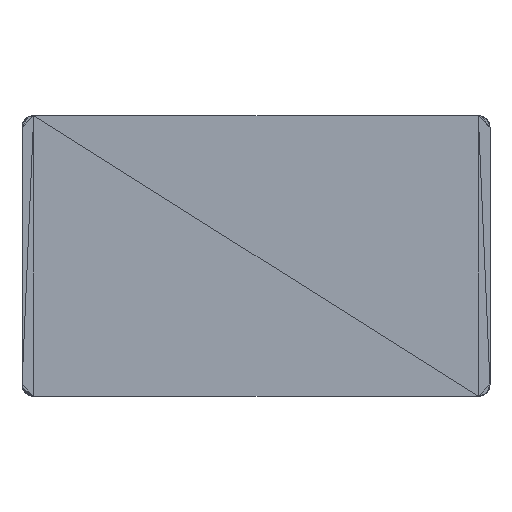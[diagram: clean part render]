
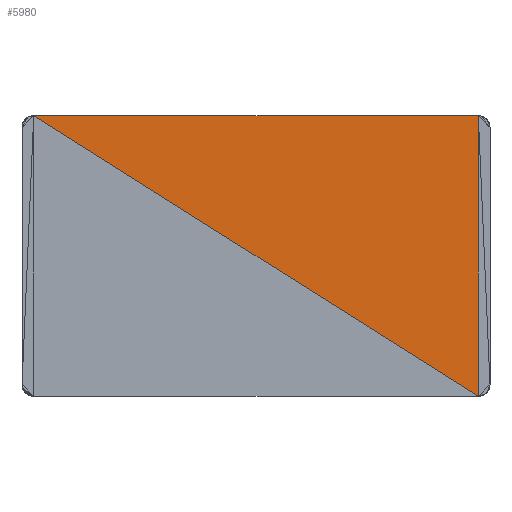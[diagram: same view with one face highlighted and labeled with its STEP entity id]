
A CAD part, top view. The second image highlights one B-rep face of the part: STEP entity #5980.
In plain terms, the highlighted planar face has unit normal (0, 0, 1).
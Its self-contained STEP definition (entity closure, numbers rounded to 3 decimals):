
#2309 = VERTEX_POINT('',#2310);
#2310 = CARTESIAN_POINT('',(28.5,-62.5,-17.8));
#3844 = VERTEX_POINT('',#3845);
#3845 = CARTESIAN_POINT('',(-28.5,-26.5,-17.8));
#3885 = PLANE('',#3886);
#3886 = AXIS2_PLACEMENT_3D('',#3887,#3888,#3889);
#3887 = CARTESIAN_POINT('',(-1.643,-26.5,
    -19.657));
#3888 = DIRECTION('',(0.,1.,0.));
#3889 = DIRECTION('',(0.,-0.,1.));
#5335 = PLANE('',#5336);
#5336 = AXIS2_PLACEMENT_3D('',#5337,#5338,#5339);
#5337 = CARTESIAN_POINT('',(-6.396,-50.896,-17.8));
#5338 = DIRECTION('',(0.,0.,1.));
#5339 = DIRECTION('',(1.,0.,-0.));
#5980 = ADVANCED_FACE('',(#5981),#5991,.T.);
#5981 = FACE_BOUND('',#5982,.T.);
#5982 = EDGE_LOOP('',(#5983,#6009,#6037));
#5983 = ORIENTED_EDGE('',*,*,#5984,.T.);
#5984 = EDGE_CURVE('',#3844,#2309,#5985,.T.);
#5985 = SURFACE_CURVE('',#5986,(#5990,#6002),.PCURVE_S1.);
#5986 = LINE('',#5987,#5988);
#5987 = CARTESIAN_POINT('',(-28.5,-26.5,-17.8));
#5988 = VECTOR('',#5989,1.);
#5989 = DIRECTION('',(0.845,-0.534,0.));
#5990 = PCURVE('',#5991,#5996);
#5991 = PLANE('',#5992);
#5992 = AXIS2_PLACEMENT_3D('',#5993,#5994,#5995);
#5993 = CARTESIAN_POINT('',(6.396,-38.104,-17.8));
#5994 = DIRECTION('',(0.,0.,1.));
#5995 = DIRECTION('',(1.,0.,-0.));
#5996 = DEFINITIONAL_REPRESENTATION('',(#5997),#6001);
#5997 = LINE('',#5998,#5999);
#5998 = CARTESIAN_POINT('',(-34.896,11.604));
#5999 = VECTOR('',#6000,1.);
#6000 = DIRECTION('',(0.845,-0.534));
#6001 = ( GEOMETRIC_REPRESENTATION_CONTEXT(2) 
PARAMETRIC_REPRESENTATION_CONTEXT() REPRESENTATION_CONTEXT('2D SPACE',''
  ) );
#6002 = PCURVE('',#5335,#6003);
#6003 = DEFINITIONAL_REPRESENTATION('',(#6004),#6008);
#6004 = LINE('',#6005,#6006);
#6005 = CARTESIAN_POINT('',(-22.104,24.396));
#6006 = VECTOR('',#6007,1.);
#6007 = DIRECTION('',(0.845,-0.534));
#6008 = ( GEOMETRIC_REPRESENTATION_CONTEXT(2) 
PARAMETRIC_REPRESENTATION_CONTEXT() REPRESENTATION_CONTEXT('2D SPACE',''
  ) );
#6009 = ORIENTED_EDGE('',*,*,#6010,.T.);
#6010 = EDGE_CURVE('',#2309,#6011,#6013,.T.);
#6011 = VERTEX_POINT('',#6012);
#6012 = CARTESIAN_POINT('',(28.5,-26.5,-17.8));
#6013 = SURFACE_CURVE('',#6014,(#6018,#6025),.PCURVE_S1.);
#6014 = LINE('',#6015,#6016);
#6015 = CARTESIAN_POINT('',(28.5,-62.5,-17.8));
#6016 = VECTOR('',#6017,1.);
#6017 = DIRECTION('',(0.,1.,0.));
#6018 = PCURVE('',#5991,#6019);
#6019 = DEFINITIONAL_REPRESENTATION('',(#6020),#6024);
#6020 = LINE('',#6021,#6022);
#6021 = CARTESIAN_POINT('',(22.104,-24.396));
#6022 = VECTOR('',#6023,1.);
#6023 = DIRECTION('',(0.,1.));
#6024 = ( GEOMETRIC_REPRESENTATION_CONTEXT(2) 
PARAMETRIC_REPRESENTATION_CONTEXT() REPRESENTATION_CONTEXT('2D SPACE',''
  ) );
#6025 = PCURVE('',#6026,#6031);
#6026 = PLANE('',#6027);
#6027 = AXIS2_PLACEMENT_3D('',#6028,#6029,#6030);
#6028 = CARTESIAN_POINT('',(28.878,-44.647,-17.8));
#6029 = DIRECTION('',(0.,0.,1.));
#6030 = DIRECTION('',(1.,0.,-0.));
#6031 = DEFINITIONAL_REPRESENTATION('',(#6032),#6036);
#6032 = LINE('',#6033,#6034);
#6033 = CARTESIAN_POINT('',(-0.378,-17.853));
#6034 = VECTOR('',#6035,1.);
#6035 = DIRECTION('',(0.,1.));
#6036 = ( GEOMETRIC_REPRESENTATION_CONTEXT(2) 
PARAMETRIC_REPRESENTATION_CONTEXT() REPRESENTATION_CONTEXT('2D SPACE',''
  ) );
#6037 = ORIENTED_EDGE('',*,*,#6038,.T.);
#6038 = EDGE_CURVE('',#6011,#3844,#6039,.T.);
#6039 = SURFACE_CURVE('',#6040,(#6044,#6051),.PCURVE_S1.);
#6040 = LINE('',#6041,#6042);
#6041 = CARTESIAN_POINT('',(28.5,-26.5,-17.8));
#6042 = VECTOR('',#6043,1.);
#6043 = DIRECTION('',(-1.,0.,0.));
#6044 = PCURVE('',#5991,#6045);
#6045 = DEFINITIONAL_REPRESENTATION('',(#6046),#6050);
#6046 = LINE('',#6047,#6048);
#6047 = CARTESIAN_POINT('',(22.104,11.604));
#6048 = VECTOR('',#6049,1.);
#6049 = DIRECTION('',(-1.,0.));
#6050 = ( GEOMETRIC_REPRESENTATION_CONTEXT(2) 
PARAMETRIC_REPRESENTATION_CONTEXT() REPRESENTATION_CONTEXT('2D SPACE',''
  ) );
#6051 = PCURVE('',#3885,#6052);
#6052 = DEFINITIONAL_REPRESENTATION('',(#6053),#6057);
#6053 = LINE('',#6054,#6055);
#6054 = CARTESIAN_POINT('',(1.857,30.143));
#6055 = VECTOR('',#6056,1.);
#6056 = DIRECTION('',(0.,-1.));
#6057 = ( GEOMETRIC_REPRESENTATION_CONTEXT(2) 
PARAMETRIC_REPRESENTATION_CONTEXT() REPRESENTATION_CONTEXT('2D SPACE',''
  ) );
